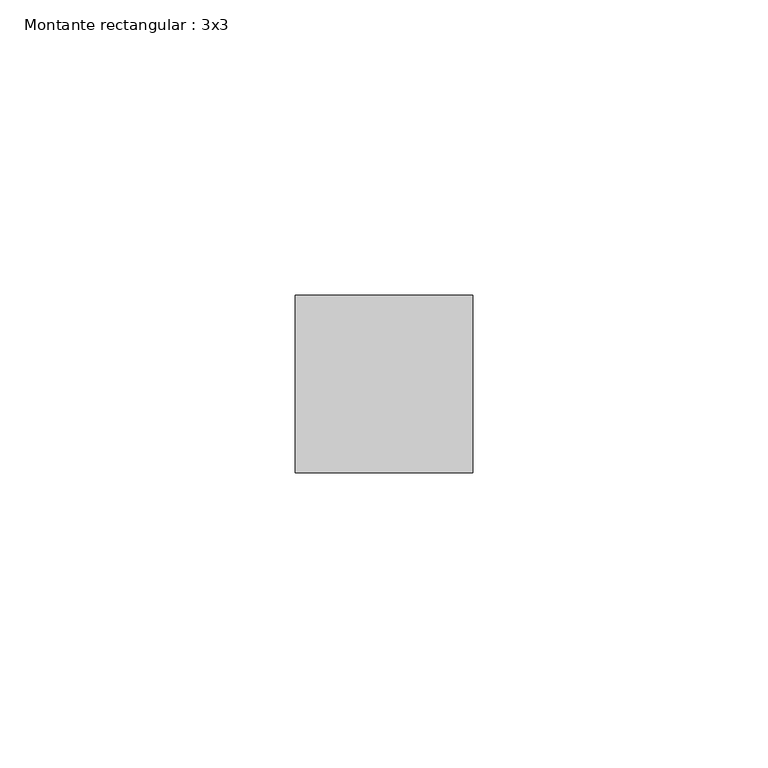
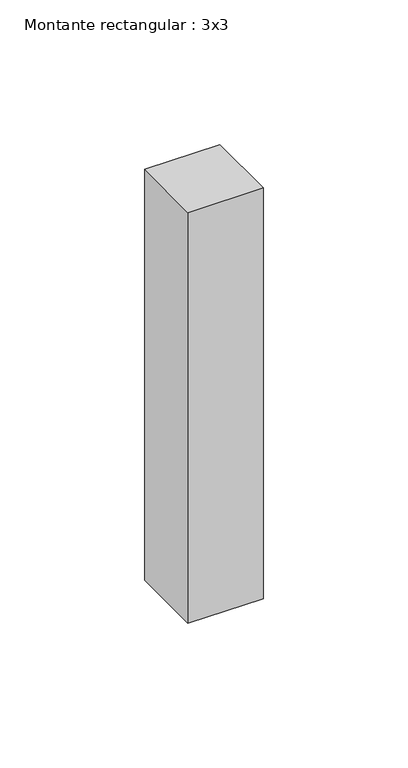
"""IFC4 building model written with IfcOpenShell, lengths in millimetres: member geometry, Montante rectangular : 3x3."""

from ifc_helpers import new_model, si_unit, frame, origin, place, context, project, spatial, polyline, outline, extrude, source, transform, mapped, element, save


def montante_rectangular_3x3_fce5142b(model_context):
    return source(origin(), model_context, "Body", "SweptSolid", [
        extrude(outline(polyline([(15.0, 15.0), (15.0, -15.0), (-15.0, -15.0), (-15.0, 15.0), (15.0, 15.0)])), frame((0.0, 0.0, -173.5244088), z_axis=(0.0, 0.0, 1.0), x_axis=(1.0, 0.0, 0.0)), (0.0, 0.0, 1.0), 173.5244088),
    ])


if __name__ == "__main__":
    model = new_model("IFC4")
    model_context = context("Model", 3, world=origin())
    ifc_project = project(units=[si_unit("LENGTHUNIT", "METRE", prefix="MILLI")], contexts=[model_context])
    site = spatial("IfcSite", under=ifc_project)
    building = spatial("IfcBuilding", under=site)
    placement = place(None, origin())
    montante_rectangular_3x3_shape = montante_rectangular_3x3_fce5142b(model_context)
    element("IfcMember", 1, ObjectType="Montante rectangular : 3x3", at=placement, inside=building, context=model_context, shape_type="MappedRepresentation", body=[
        mapped(montante_rectangular_3x3_shape, transform((0.0, 0.0, 0.0), x_axis=(1.0, 0.0, 0.0), y_axis=(0.0, 1.0, 0.0), z_axis=(0.0, 0.0, 1.0))),
    ])
    save(model, "model.ifc")
